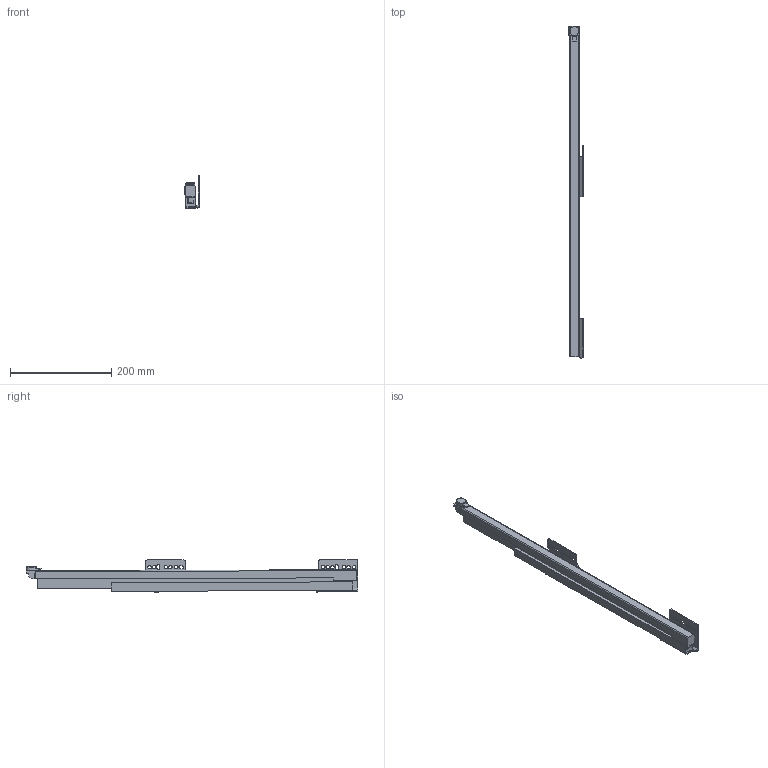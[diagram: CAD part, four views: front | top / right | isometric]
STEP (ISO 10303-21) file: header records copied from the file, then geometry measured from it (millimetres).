
FILE_DESCRIPTION (( 'STEP AP214' ), '1' );
FILE_NAME ('_IMOS_NOVA-Pro_KS_TL_EB29mm_RE_NL650.step', '2010-07-15T11:35:09', ( 'grass' ), ( '' ), 'SwSTEP 2.0', 'SolidWorks 2009', '' );
FILE_SCHEMA (( 'AUTOMOTIVE_DESIGN' ));
Length unit declared in the file: millimetre
Products named in the file (1): _IMOS_NOVA-Pro_KS_TL_EB29mm_RE_NL650
Bounding box: 27.95 x 655.51 x 64.46 mm (x, y, z)
Volume: 469246.8 mm3; surface area: 194486.7 mm2
Topology: 8 solids, 8 shells, 185 faces, 496 edges, 328 vertices
Faces by surface type: plane 116, cylinder 64, torus 5
Entity records: 5964 total; most frequent: CARTESIAN_POINT 1097, ORIENTED_EDGE 992, DIRECTION 972, EDGE_CURVE 496, VECTOR 350, LINE 350, VERTEX_POINT 328, AXIS2_PLACEMENT_3D 311
